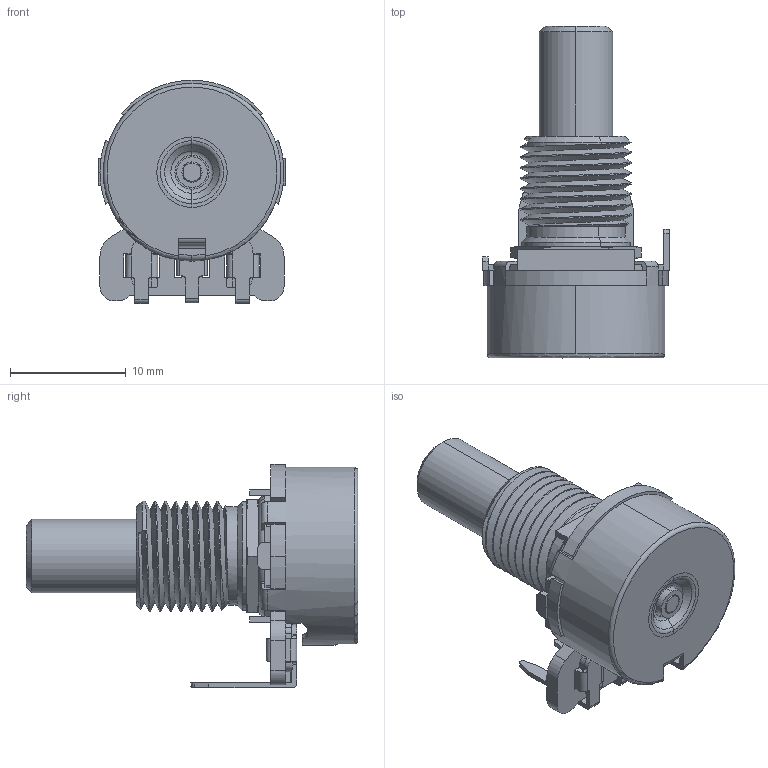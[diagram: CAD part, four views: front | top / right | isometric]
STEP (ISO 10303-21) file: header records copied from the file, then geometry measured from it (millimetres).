
FILE_DESCRIPTION (( 'STEP AP214' ), '1' );
FILE_NAME ('270U324P254A1A1.STEP', '2019-05-24T08:14:23', ( '' ), ( '' ), 'SwSTEP 2.0', 'SolidWorks 2019', '' );
FILE_SCHEMA (( 'AUTOMOTIVE_DESIGN' ));
Length unit declared in the file: millimetre
Products named in the file (10): shaft for 270U324P254A1A1; 270-07-014-01-53; 270-40-060-02-42 (general); 270E-E-2254; 270U324P254A1A1; 270-13-027-06-12 (for 270-95-009); 270-18-020-01-37(for 270-95-009); 270-01-121-30-01; 270 element; 270-95-009 (for 121 base)
Assembly tree (9 placements, depth 3):
  270U324P254A1A1
    270-40-060-02-42 (general)
    270-95-009 (for 121 base)
      270 element
      270-13-027-06-12 (for 270-95-009)
      270-18-020-01-37(for 270-95-009)
      270-01-121-30-01
    270-07-014-01-53
    270E-E-2254
    shaft for 270U324P254A1A1
Bounding box: 16.16 x 28.65 x 19.27 mm (x, y, z)
Volume: 1675.8 mm3; surface area: 3923 mm2
Topology: 9 solids, 9 shells, 599 faces, 1675 edges, 1097 vertices
Faces by surface type: plane 320, cylinder 202, cone 47, torus 28, bspline 2
Entity records: 20897 total; most frequent: CARTESIAN_POINT 4842, ORIENTED_EDGE 3350, DIRECTION 3267, EDGE_CURVE 1675, AXIS2_PLACEMENT_3D 1134, VERTEX_POINT 1097, VECTOR 999, LINE 999
